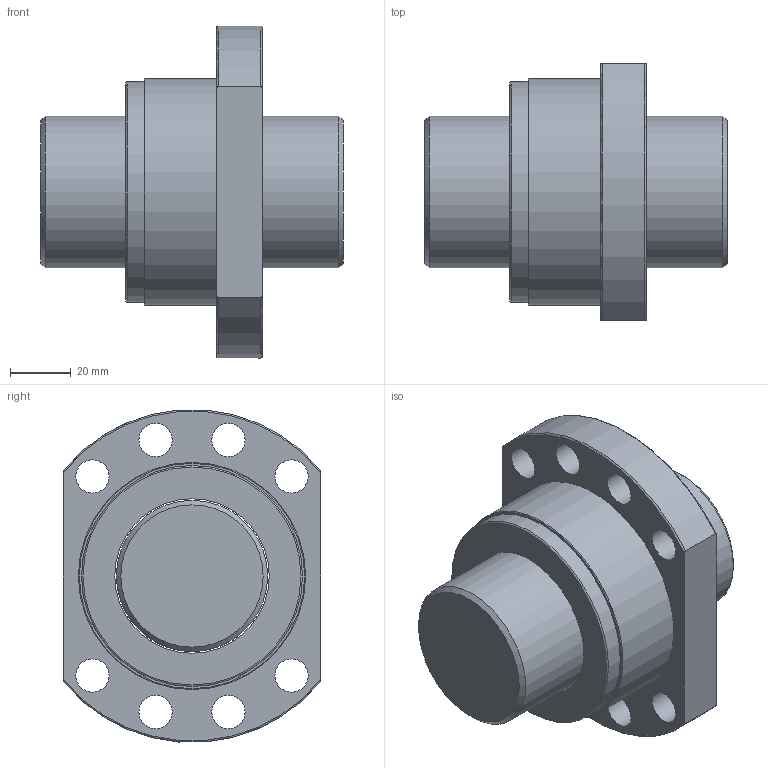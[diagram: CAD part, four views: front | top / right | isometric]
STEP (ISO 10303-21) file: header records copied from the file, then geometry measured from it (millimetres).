
FILE_DESCRIPTION(/* description */ (''),/* implementation_level */ '2;1');
FILE_NAME(/* name */ 'SFS5005',/* time_stamp */ '2007-10-26T11:28:09+08:00',/* author */ (''),/* organization */ (''),/* preprocessor_version */ 'ST-DEVELOPER v9',/* originating_system */ 'UGS - NX 3.0',/* authorisation */ '');
FILE_SCHEMA (('CONFIG_CONTROL_DESIGN'));
Length unit declared in the file: millimetre
Products named in the file (1): jaso37B0hu8q
Bounding box: 100 x 85 x 109.65 mm (x, y, z)
Volume: 347023.3 mm3; surface area: 64911.2 mm2
Topology: 4 solids, 4 shells, 39 faces, 90 edges, 61 vertices
Faces by surface type: cylinder 18, plane 12, torus 7, cone 2
Full cylindrical faces by diameter (mm): 11 x8, 50 x1, 51 x3, 73 x2, 75 x2
Entity records: 1208 total; most frequent: CARTESIAN_POINT 298, DIRECTION 178, ORIENTED_EDGE 122, AXIS2_PLACEMENT_3D 85, EDGE_LOOP 84, FACE_BOUND 64, EDGE_CURVE 61, VERTEX_POINT 53
